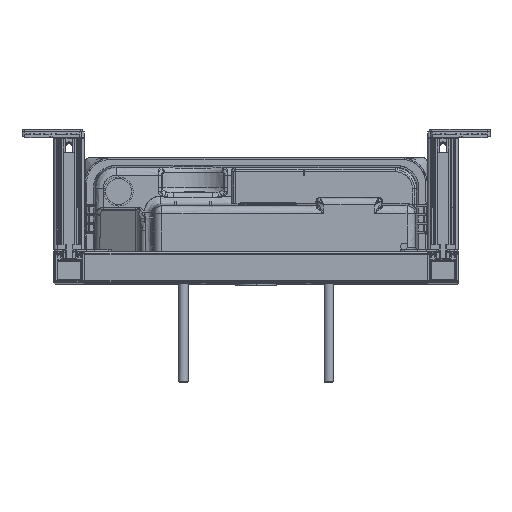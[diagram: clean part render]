
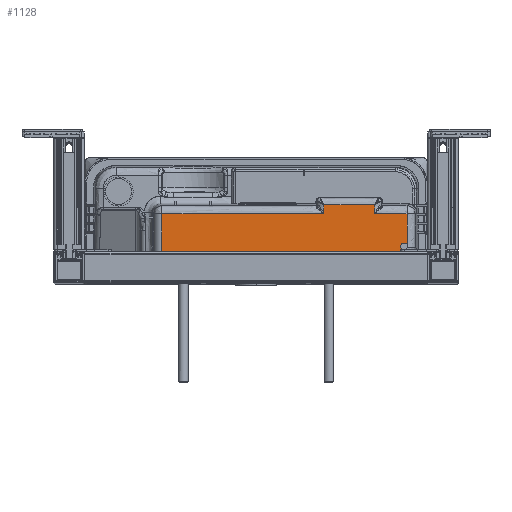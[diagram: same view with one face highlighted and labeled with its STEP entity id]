
A CAD part, top view. The second image highlights one B-rep face of the part: STEP entity #1128.
In plain terms, the highlighted planar face has unit normal (0, 0, 1).
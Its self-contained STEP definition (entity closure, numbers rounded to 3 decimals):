
#1128=ADVANCED_FACE('',(#8515),#115638,.T.);
#8515=FACE_OUTER_BOUND('',#15940,.T.);
#15940=EDGE_LOOP('',(#26403,#26404,#26405,#26406,#26407,#26408,#26409,#26410,
#26411,#26412,#26413));
#26403=ORIENTED_EDGE('',*,*,#63126,.T.);
#26404=ORIENTED_EDGE('',*,*,#63114,.T.);
#26405=ORIENTED_EDGE('',*,*,#63115,.T.);
#26406=ORIENTED_EDGE('',*,*,#63116,.T.);
#26407=ORIENTED_EDGE('',*,*,#63117,.T.);
#26408=ORIENTED_EDGE('',*,*,#63118,.T.);
#26409=ORIENTED_EDGE('',*,*,#63119,.T.);
#26410=ORIENTED_EDGE('',*,*,#63120,.T.);
#26411=ORIENTED_EDGE('',*,*,#63121,.T.);
#26412=ORIENTED_EDGE('',*,*,#63122,.T.);
#26413=ORIENTED_EDGE('',*,*,#63123,.T.);
#63114=EDGE_CURVE('',#100925,#100926,#81278,.T.);
#63115=EDGE_CURVE('',#100926,#100927,#88481,.T.);
#63116=EDGE_CURVE('',#100927,#100928,#88482,.T.);
#63117=EDGE_CURVE('',#100928,#100929,#88483,.T.);
#63118=EDGE_CURVE('',#100929,#100930,#88484,.T.);
#63119=EDGE_CURVE('',#100930,#100931,#88485,.T.);
#63120=EDGE_CURVE('',#100931,#100932,#88486,.T.);
#63121=EDGE_CURVE('',#100932,#100933,#88487,.T.);
#63122=EDGE_CURVE('',#100933,#100934,#88488,.T.);
#63123=EDGE_CURVE('',#100934,#100924,#88489,.T.);
#63126=EDGE_CURVE('',#100924,#100925,#81281,.T.);
#81278=(
BOUNDED_CURVE()
B_SPLINE_CURVE(2,(#169556,#169557,#169558,#169559,#169560),
 .UNSPECIFIED.,.F.,.F.)
B_SPLINE_CURVE_WITH_KNOTS((3,2,3),(-10.643,-5.321,
0.),.UNSPECIFIED.)
CURVE()
GEOMETRIC_REPRESENTATION_ITEM()
RATIONAL_B_SPLINE_CURVE((1.,0.801,1.,0.801,1.))
REPRESENTATION_ITEM('')
);
#81281=(
BOUNDED_CURVE()
B_SPLINE_CURVE(2,(#169600,#169601,#169602,#169603,#169604),
 .UNSPECIFIED.,.F.,.F.)
B_SPLINE_CURVE_WITH_KNOTS((3,2,3),(-10.606,-6.544,
0.),.UNSPECIFIED.)
CURVE()
GEOMETRIC_REPRESENTATION_ITEM()
RATIONAL_B_SPLINE_CURVE((1.,0.881,1.,0.707,1.))
REPRESENTATION_ITEM('')
);
#88481=B_SPLINE_CURVE_WITH_KNOTS('',1,(#169561,#169562),.UNSPECIFIED.,.F.,
 .F.,(2,2),(0.,38.214),.UNSPECIFIED.);
#88482=B_SPLINE_CURVE_WITH_KNOTS('',1,(#169563,#169564),.UNSPECIFIED.,.F.,
 .F.,(2,2),(0.,39.978),.UNSPECIFIED.);
#88483=B_SPLINE_CURVE_WITH_KNOTS('',1,(#169565,#169566),.UNSPECIFIED.,.F.,
 .F.,(2,2),(0.,11.022),.UNSPECIFIED.);
#88484=B_SPLINE_CURVE_WITH_KNOTS('',1,(#169567,#169568),.UNSPECIFIED.,.F.,
 .F.,(2,2),(0.,63.),.UNSPECIFIED.);
#88485=B_SPLINE_CURVE_WITH_KNOTS('',1,(#169569,#169570),.UNSPECIFIED.,.F.,
 .F.,(2,2),(0.,11.022),.UNSPECIFIED.);
#88486=B_SPLINE_CURVE_WITH_KNOTS('',1,(#169571,#169572),.UNSPECIFIED.,.F.,
 .F.,(2,2),(0.,199.935),.UNSPECIFIED.);
#88487=B_SPLINE_CURVE_WITH_KNOTS('',1,(#169573,#169574),.UNSPECIFIED.,.F.,
 .F.,(2,2),(0.,57.956),.UNSPECIFIED.);
#88488=B_SPLINE_CURVE_WITH_KNOTS('',1,(#169575,#169576),.UNSPECIFIED.,.F.,
 .F.,(2,2),(0.,286.923),.UNSPECIFIED.);
#88489=B_SPLINE_CURVE_WITH_KNOTS('',3,(#169577,#169578,#169579,#169580,
#169581,#169582,#169583,#169584,#169585,#169586,#169587,#169588,#169589,
#169590,#169591,#169592,#169593,#169594,#169595),.UNSPECIFIED.,.F.,.F.,
(4,1,1,1,1,1,1,1,1,1,1,1,1,1,1,1,4),(-1.,-0.937,-0.875,
-0.812,-0.75,-0.687,-0.625,
-0.562,-0.5,-0.437,-0.375,
-0.312,-0.25,-0.187,-0.125,
-0.062,0.),.UNSPECIFIED.);
#100924=VERTEX_POINT('',#168542);
#100925=VERTEX_POINT('',#168543);
#100926=VERTEX_POINT('',#168544);
#100927=VERTEX_POINT('',#168545);
#100928=VERTEX_POINT('',#168546);
#100929=VERTEX_POINT('',#168547);
#100930=VERTEX_POINT('',#168548);
#100931=VERTEX_POINT('',#168549);
#100932=VERTEX_POINT('',#168550);
#100933=VERTEX_POINT('',#168551);
#100934=VERTEX_POINT('',#168552);
#115638=PLANE('',#119496);
#119496=AXIS2_PLACEMENT_3D('',#152163,#123202,$);
#123202=DIRECTION('',(0.,0.,1.));
#152163=CARTESIAN_POINT('',(-146.847,2.899,1087.14));
#168542=CARTESIAN_POINT('',(186.458,25.1,1087.14));
#168543=CARTESIAN_POINT('',(178.85,27.395,1087.14));
#168544=CARTESIAN_POINT('',(186.478,29.659,1087.14));
#168545=CARTESIAN_POINT('',(186.478,67.873,1087.14));
#168546=CARTESIAN_POINT('',(146.5,67.873,1087.14));
#168547=CARTESIAN_POINT('',(146.5,78.895,1087.14));
#168548=CARTESIAN_POINT('',(83.5,78.895,1087.14));
#168549=CARTESIAN_POINT('',(83.5,67.873,1087.14));
#168550=CARTESIAN_POINT('',(-116.435,67.873,1087.14));
#168551=CARTESIAN_POINT('',(-116.435,9.917,1087.14));
#168552=CARTESIAN_POINT('',(170.488,9.917,1087.14));
#169556=CARTESIAN_POINT('',(178.85,27.395,1087.14));
#169557=CARTESIAN_POINT('',(178.85,30.492,1087.14));
#169558=CARTESIAN_POINT('',(181.819,31.373,1087.14));
#169559=CARTESIAN_POINT('',(184.788,32.255,1087.14));
#169560=CARTESIAN_POINT('',(186.478,29.659,1087.14));
#169561=CARTESIAN_POINT('',(186.478,29.659,1087.14));
#169562=CARTESIAN_POINT('',(186.478,67.873,1087.14));
#169563=CARTESIAN_POINT('',(186.478,67.873,1087.14));
#169564=CARTESIAN_POINT('',(146.5,67.873,1087.14));
#169565=CARTESIAN_POINT('',(146.5,67.873,1087.14));
#169566=CARTESIAN_POINT('',(146.5,78.895,1087.14));
#169567=CARTESIAN_POINT('',(146.5,78.895,1087.14));
#169568=CARTESIAN_POINT('',(83.5,78.895,1087.14));
#169569=CARTESIAN_POINT('',(83.5,78.895,1087.14));
#169570=CARTESIAN_POINT('',(83.5,67.873,1087.14));
#169571=CARTESIAN_POINT('',(83.5,67.873,1087.14));
#169572=CARTESIAN_POINT('',(-116.435,67.873,1087.14));
#169573=CARTESIAN_POINT('',(-116.435,67.873,1087.14));
#169574=CARTESIAN_POINT('',(-116.435,9.917,1087.14));
#169575=CARTESIAN_POINT('',(-116.435,9.917,1087.14));
#169576=CARTESIAN_POINT('',(170.488,9.917,1087.14));
#169577=CARTESIAN_POINT('',(170.488,9.917,1087.14));
#169578=CARTESIAN_POINT('',(170.996,9.917,1087.14));
#169579=CARTESIAN_POINT('',(172.007,9.965,1087.14));
#169580=CARTESIAN_POINT('',(173.515,10.181,1087.14));
#169581=CARTESIAN_POINT('',(174.993,10.539,1087.14));
#169582=CARTESIAN_POINT('',(176.431,11.036,1087.14));
#169583=CARTESIAN_POINT('',(177.815,11.666,1087.14));
#169584=CARTESIAN_POINT('',(179.133,12.426,1087.14));
#169585=CARTESIAN_POINT('',(180.373,13.306,1087.14));
#169586=CARTESIAN_POINT('',(181.524,14.301,1087.14));
#169587=CARTESIAN_POINT('',(182.575,15.4,1087.14));
#169588=CARTESIAN_POINT('',(183.517,16.594,1087.14));
#169589=CARTESIAN_POINT('',(184.342,17.872,1087.14));
#169590=CARTESIAN_POINT('',(185.041,19.222,1087.14));
#169591=CARTESIAN_POINT('',(185.609,20.633,1087.14));
#169592=CARTESIAN_POINT('',(186.041,22.092,1087.14));
#169593=CARTESIAN_POINT('',(186.333,23.586,1087.14));
#169594=CARTESIAN_POINT('',(186.432,24.593,1087.14));
#169595=CARTESIAN_POINT('',(186.458,25.1,1087.14));
#169600=CARTESIAN_POINT('',(186.458,25.1,1087.14));
#169601=CARTESIAN_POINT('',(185.226,23.245,1087.14));
#169602=CARTESIAN_POINT('',(183.,23.245,1087.14));
#169603=CARTESIAN_POINT('',(178.85,23.245,1087.14));
#169604=CARTESIAN_POINT('',(178.85,27.395,1087.14));
